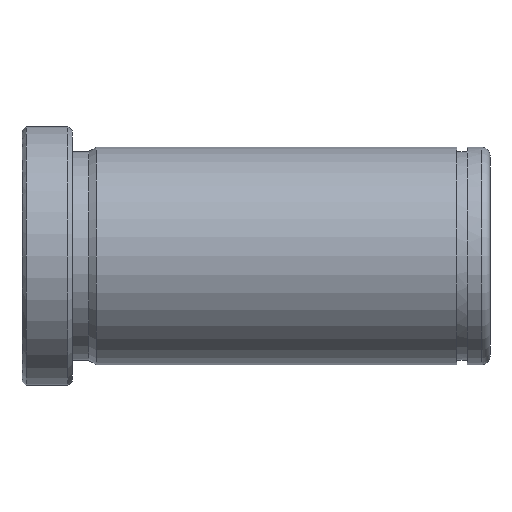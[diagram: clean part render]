
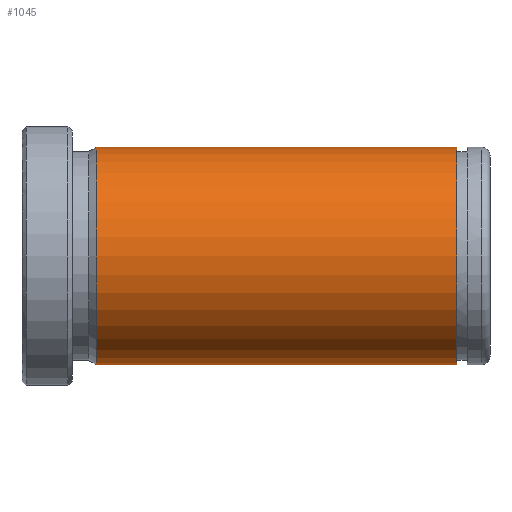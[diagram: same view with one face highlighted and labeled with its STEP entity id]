
A CAD part, front view. The second image highlights one B-rep face of the part: STEP entity #1045.
In plain terms, the highlighted cylindrical face has radius 13 mm (diameter 26 mm), a partial arc.
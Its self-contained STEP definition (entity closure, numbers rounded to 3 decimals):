
#851=CARTESIAN_POINT('Vertex',(8.866,0.,-13.)) ;
#858=CARTESIAN_POINT('Vertex',(8.866,0.,13.)) ;
#887=CARTESIAN_POINT('Axis2P3D Location',(8.866,0.,0.)) ;
#891=CARTESIAN_POINT('Vertex',(8.866,-13.,0.)) ;
#894=CARTESIAN_POINT('Axis2P3D Location',(8.866,0.,0.)) ;
#985=CARTESIAN_POINT('Line Origine',(112.,0.,13.)) ;
#989=CARTESIAN_POINT('Vertex',(52.,0.,13.)) ;
#1003=CARTESIAN_POINT('Vertex',(52.,0.,-13.)) ;
#1006=CARTESIAN_POINT('Line Origine',(112.,0.,-13.)) ;
#1020=CARTESIAN_POINT('Axis2P3D Location',(112.,0.,0.)) ;
#1025=CARTESIAN_POINT('Axis2P3D Location',(52.,0.,0.)) ;
#1029=CARTESIAN_POINT('Vertex',(52.,-13.,0.)) ;
#1032=CARTESIAN_POINT('Axis2P3D Location',(52.,0.,0.)) ;
#888=DIRECTION('Axis2P3D Direction',(1.,0.,-0.)) ;
#895=DIRECTION('Axis2P3D Direction',(1.,0.,-0.)) ;
#986=DIRECTION('Vector Direction',(-1.,0.,0.)) ;
#1007=DIRECTION('Vector Direction',(-1.,0.,0.)) ;
#1021=DIRECTION('Axis2P3D Direction',(-1.,-0.,-0.)) ;
#1022=DIRECTION('Axis2P3D XDirection',(0.,0.,-1.)) ;
#1026=DIRECTION('Axis2P3D Direction',(-1.,-0.,-0.)) ;
#1033=DIRECTION('Axis2P3D Direction',(-1.,-0.,-0.)) ;
#889=AXIS2_PLACEMENT_3D('Circle Axis2P3D',#887,#888,$) ;
#896=AXIS2_PLACEMENT_3D('Circle Axis2P3D',#894,#895,$) ;
#1023=AXIS2_PLACEMENT_3D('Cylinder Axis2P3D',#1020,#1021,#1022) ;
#1027=AXIS2_PLACEMENT_3D('Circle Axis2P3D',#1025,#1026,$) ;
#1034=AXIS2_PLACEMENT_3D('Circle Axis2P3D',#1032,#1033,$) ;
#1038=ORIENTED_EDGE('',*,*,#1010,.T.) ;
#1039=ORIENTED_EDGE('',*,*,#1031,.F.) ;
#1040=ORIENTED_EDGE('',*,*,#1036,.F.) ;
#1041=ORIENTED_EDGE('',*,*,#991,.T.) ;
#1042=ORIENTED_EDGE('',*,*,#898,.T.) ;
#1043=ORIENTED_EDGE('',*,*,#893,.T.) ;
#987=VECTOR('Line Direction',#986,1.) ;
#1008=VECTOR('Line Direction',#1007,1.) ;
#1045=ADVANCED_FACE('553-18X56',(#1044),#1024,.T.) ;
#890=CIRCLE('generated circle',#889,13.) ;
#897=CIRCLE('generated circle',#896,13.) ;
#1028=CIRCLE('generated circle',#1027,13.) ;
#1035=CIRCLE('generated circle',#1034,13.) ;
#1024=CYLINDRICAL_SURFACE('generated cylinder',#1023,13.) ;
#893=EDGE_CURVE('',#892,#852,#890,.T.) ;
#898=EDGE_CURVE('',#859,#892,#897,.T.) ;
#991=EDGE_CURVE('',#990,#859,#988,.T.) ;
#1010=EDGE_CURVE('',#852,#1004,#1009,.F.) ;
#1031=EDGE_CURVE('',#1030,#1004,#1028,.F.) ;
#1036=EDGE_CURVE('',#990,#1030,#1035,.F.) ;
#1037=EDGE_LOOP('',(#1038,#1039,#1040,#1041,#1042,#1043)) ;
#1044=FACE_OUTER_BOUND('',#1037,.T.) ;
#988=LINE('Line',#985,#987) ;
#1009=LINE('Line',#1006,#1008) ;
#852=VERTEX_POINT('',#851) ;
#859=VERTEX_POINT('',#858) ;
#892=VERTEX_POINT('',#891) ;
#990=VERTEX_POINT('',#989) ;
#1004=VERTEX_POINT('',#1003) ;
#1030=VERTEX_POINT('',#1029) ;
